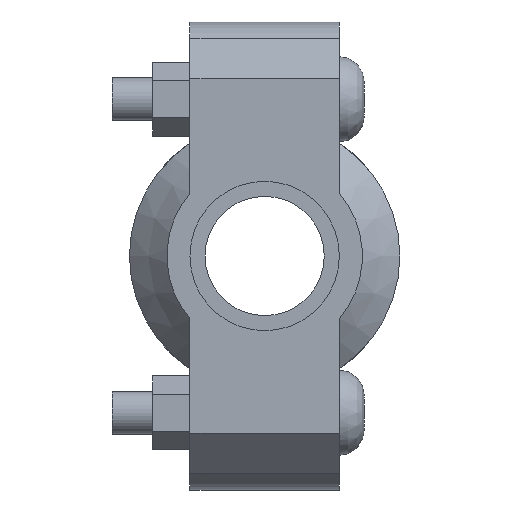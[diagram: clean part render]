
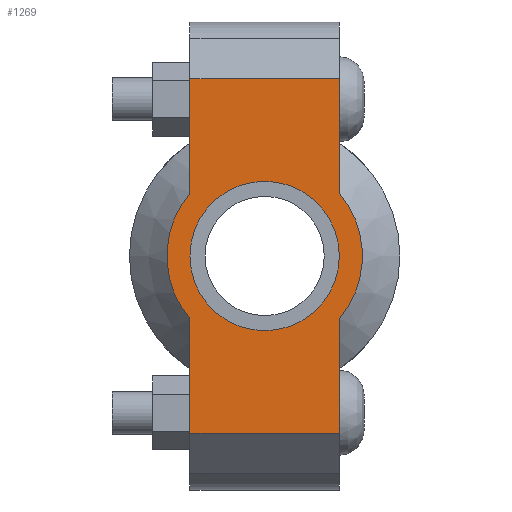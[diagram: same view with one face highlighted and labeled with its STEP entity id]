
A CAD part, left-side view. The second image highlights one B-rep face of the part: STEP entity #1269.
In plain terms, the highlighted planar face has unit normal (-1, 0, 0) as drawn and (0, 0, 1) by its records, which use the part's own axes.
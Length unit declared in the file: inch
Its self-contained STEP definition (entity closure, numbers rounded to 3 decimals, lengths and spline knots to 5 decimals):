
#97=LINE('',#2139,#186);
#112=LINE('',#2198,#201);
#120=LINE('',#2228,#209);
#122=LINE('',#2231,#211);
#123=LINE('',#2236,#212);
#124=LINE('',#2237,#213);
#186=VECTOR('',#1720,0.3937);
#201=VECTOR('',#1755,0.3937);
#209=VECTOR('',#1775,0.3937);
#211=VECTOR('',#1779,0.3937);
#212=VECTOR('',#1784,0.3937);
#213=VECTOR('',#1785,0.3937);
#261=FACE_BOUND('',#390,.T.);
#309=FACE_OUTER_BOUND('',#389,.T.);
#389=EDGE_LOOP('',(#995,#996,#997,#998,#999,#1000,#1001,#1002));
#390=EDGE_LOOP('',(#1003));
#471=CIRCLE('',#1477,0.86);
#472=CIRCLE('',#1478,0.86);
#473=CIRCLE('',#1479,0.6575);
#556=VERTEX_POINT('',#2136);
#557=VERTEX_POINT('',#2138);
#578=VERTEX_POINT('',#2193);
#579=VERTEX_POINT('',#2197);
#588=VERTEX_POINT('',#2223);
#589=VERTEX_POINT('',#2227);
#590=VERTEX_POINT('',#2233);
#591=VERTEX_POINT('',#2235);
#592=VERTEX_POINT('',#2239);
#696=EDGE_CURVE('',#557,#556,#97,.T.);
#721=EDGE_CURVE('',#579,#578,#112,.T.);
#734=EDGE_CURVE('',#589,#588,#120,.T.);
#736=EDGE_CURVE('',#589,#556,#122,.T.);
#737=EDGE_CURVE('',#588,#590,#471,.T.);
#738=EDGE_CURVE('',#590,#591,#123,.T.);
#739=EDGE_CURVE('',#579,#591,#124,.T.);
#740=EDGE_CURVE('',#578,#557,#472,.T.);
#741=EDGE_CURVE('',#592,#592,#473,.T.);
#995=ORIENTED_EDGE('',*,*,#736,.F.);
#996=ORIENTED_EDGE('',*,*,#734,.T.);
#997=ORIENTED_EDGE('',*,*,#737,.T.);
#998=ORIENTED_EDGE('',*,*,#738,.T.);
#999=ORIENTED_EDGE('',*,*,#739,.F.);
#1000=ORIENTED_EDGE('',*,*,#721,.T.);
#1001=ORIENTED_EDGE('',*,*,#740,.T.);
#1002=ORIENTED_EDGE('',*,*,#696,.T.);
#1003=ORIENTED_EDGE('',*,*,#741,.T.);
#1146=PLANE('',#1476);
#1269=ADVANCED_FACE('',(#309,#261),#1146,.T.);
#1476=AXIS2_PLACEMENT_3D('',#2232,#1780,#1781);
#1477=AXIS2_PLACEMENT_3D('',#2234,#1782,#1783);
#1478=AXIS2_PLACEMENT_3D('',#2238,#1786,#1787);
#1479=AXIS2_PLACEMENT_3D('',#2240,#1788,#1789);
#1720=DIRECTION('',(1.,0.,0.));
#1755=DIRECTION('',(1.,0.,0.));
#1775=DIRECTION('',(-1.,0.,0.));
#1779=DIRECTION('',(0.,-1.,0.));
#1780=DIRECTION('center_axis',(0.,0.,1.));
#1781=DIRECTION('ref_axis',(-1.,0.,0.));
#1782=DIRECTION('center_axis',(0.,0.,1.));
#1783=DIRECTION('ref_axis',(1.,0.,0.));
#1784=DIRECTION('',(-1.,0.,0.));
#1785=DIRECTION('',(0.,1.,0.));
#1786=DIRECTION('center_axis',(0.,0.,1.));
#1787=DIRECTION('ref_axis',(1.,0.,0.));
#1788=DIRECTION('center_axis',(0.,0.,-1.));
#1789=DIRECTION('ref_axis',(1.,0.,0.));
#2136=CARTESIAN_POINT('',(1.56,-0.6575,0.875));
#2138=CARTESIAN_POINT('',(0.55434,-0.6575,0.875));
#2139=CARTESIAN_POINT('',(-2.06,-0.6575,0.875));
#2193=CARTESIAN_POINT('',(-0.55434,-0.6575,0.875));
#2197=CARTESIAN_POINT('',(-1.56,-0.6575,0.875));
#2198=CARTESIAN_POINT('',(-2.06,-0.6575,0.875));
#2223=CARTESIAN_POINT('',(0.55434,0.6575,0.875));
#2227=CARTESIAN_POINT('',(1.56,0.6575,0.875));
#2228=CARTESIAN_POINT('',(2.06,0.6575,0.875));
#2231=CARTESIAN_POINT('',(1.56,-0.32875,0.875));
#2232=CARTESIAN_POINT('Origin',(0.,0.,
0.875));
#2233=CARTESIAN_POINT('',(-0.55434,0.6575,0.875));
#2234=CARTESIAN_POINT('Origin',(0.,0.,0.875));
#2235=CARTESIAN_POINT('',(-1.56,0.6575,0.875));
#2236=CARTESIAN_POINT('',(2.06,0.6575,0.875));
#2237=CARTESIAN_POINT('',(-1.56,0.32875,0.875));
#2238=CARTESIAN_POINT('Origin',(0.,0.,0.875));
#2239=CARTESIAN_POINT('',(-0.6575,0.,0.875));
#2240=CARTESIAN_POINT('Origin',(0.,0.,0.875));
